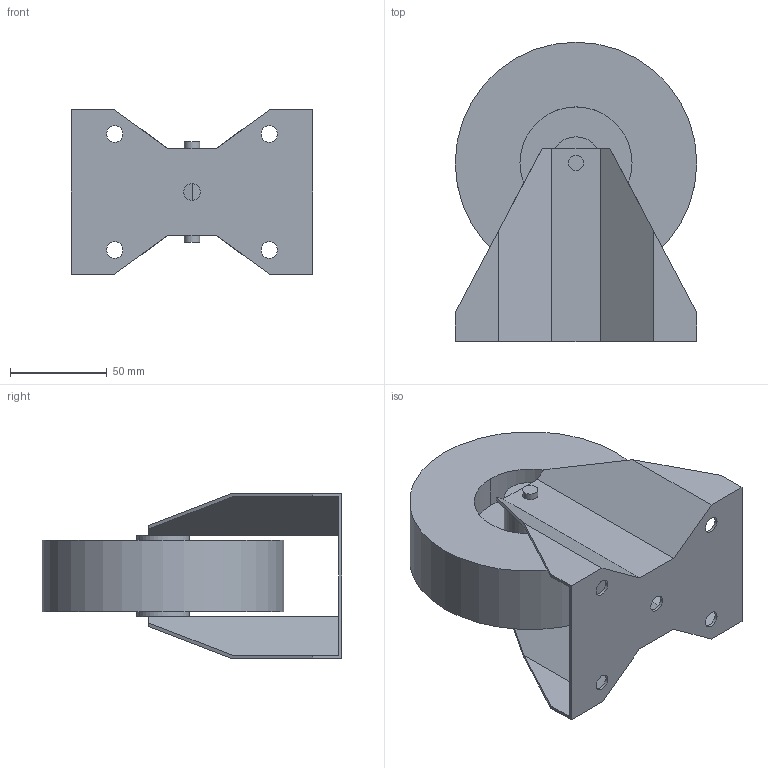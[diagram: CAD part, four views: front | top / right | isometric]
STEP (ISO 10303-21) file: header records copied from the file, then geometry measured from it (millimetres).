
FILE_DESCRIPTION((''),'2;1');
FILE_NAME('RUF125N_ASM','2002-12-27T',('Lipro doo'),('Lipro d.o.o.'),'PRO/ENGINEER BY PARAMETRIC TECHNOLOGY CORPORATION, 2001150','PRO/ENGINEER BY PARAMETRIC TECHNOLOGY CORPORATION, 2001150','');
FILE_SCHEMA(('CONFIG_CONTROL_DESIGN'));
Length unit declared in the file: millimetre
Products named in the file (3): RUF125N_2; RUF125N_1; RUF125N_ASM
Assembly tree (2 placements, depth 2):
  RUF125N_ASM
    RUF125N_2
    RUF125N_1
Bounding box: 125 x 155 x 85 mm (x, y, z)
Volume: 427883.9 mm3; surface area: 104629.6 mm2
Topology: 2 solids, 2 shells, 66 faces, 168 edges, 112 vertices
Faces by surface type: plane 38, cylinder 28
Entity records: 2129 total; most frequent: DIRECTION 366, CARTESIAN_POINT 351, ORIENTED_EDGE 336, EDGE_CURVE 168, AXIS2_PLACEMENT_3D 127, VECTOR 112, LINE 112, VERTEX_POINT 112
